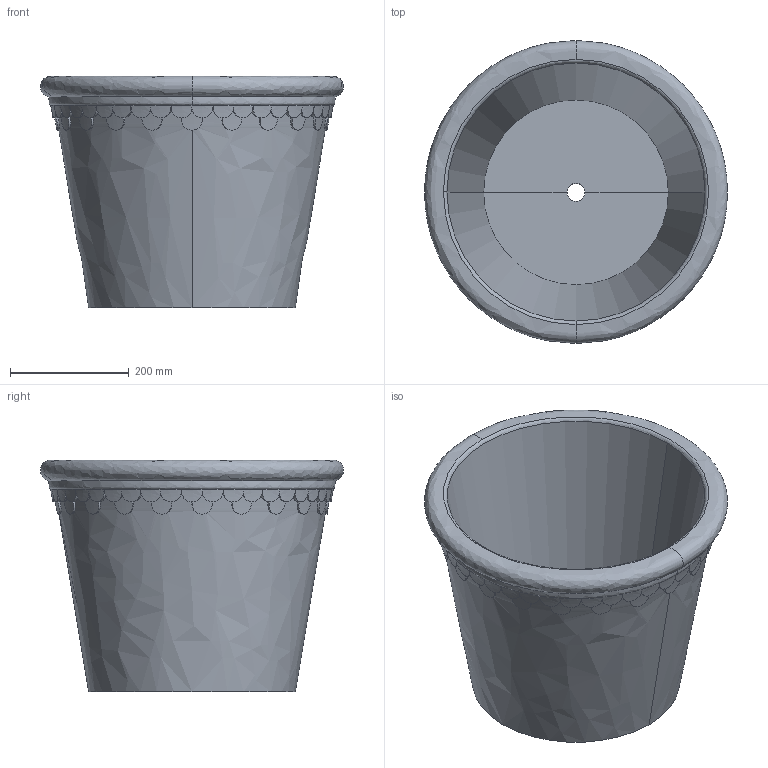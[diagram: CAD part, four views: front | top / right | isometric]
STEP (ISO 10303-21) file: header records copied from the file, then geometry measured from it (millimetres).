
FILE_DESCRIPTION(/* description */ (''),/* implementation_level */ '2;1');
FILE_NAME(/* name */ 'KBH50',/* time_stamp */ '2026-04-30T08:39:05+02:00',/* author */ (''),/* organization */ (''),/* preprocessor_version */ 'ST-DEVELOPER v19.2',/* originating_system */ 'Rhino 8.30',/* authorisation */ '');
FILE_SCHEMA (('CONFIG_CONTROL_DESIGN'));
Length unit declared in the file: millimetre
Products named in the file (1): Document
Bounding box: 509.84 x 510 x 390 mm (x, y, z)
Volume: 13468186.3 mm3; surface area: 1198691.7 mm2
Topology: 1 solids, 1 shells, 121 faces, 354 edges, 233 vertices
Faces by surface type: bspline 115, plane 4, cylinder 2
Entity records: 83627 total; most frequent: CARTESIAN_POINT 81243, ORIENTED_EDGE 708, EDGE_CURVE 354, B_SPLINE_CURVE_WITH_KNOTS 301, VERTEX_POINT 233, ADVANCED_FACE 121, FACE_OUTER_BOUND 121, EDGE_LOOP 121
